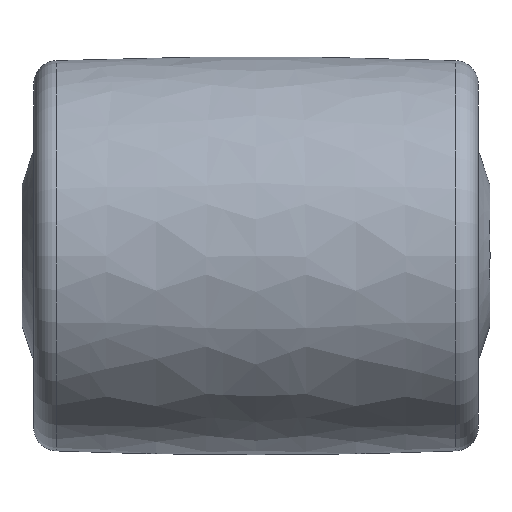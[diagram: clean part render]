
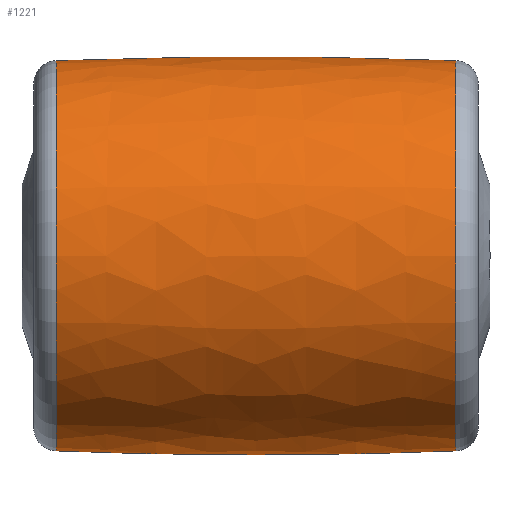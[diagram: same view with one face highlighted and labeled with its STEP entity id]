
A CAD part, front view. The second image highlights one B-rep face of the part: STEP entity #1221.
In plain terms, the highlighted free-form (B-spline) face has degree [2, 2] with [3, 9] control points.
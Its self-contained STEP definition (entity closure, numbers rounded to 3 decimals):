
#49=(
BOUNDED_SURFACE()
B_SPLINE_SURFACE(2,2,((#2152,#2153,#2154,#2155,#2156,#2157,#2158,#2159,
#2160),(#2161,#2162,#2163,#2164,#2165,#2166,#2167,#2168,#2169),(#2170,#2171,
#2172,#2173,#2174,#2175,#2176,#2177,#2178)),.UNSPECIFIED.,.F.,.T.,.F.)
B_SPLINE_SURFACE_WITH_KNOTS((3,3),(3,2,2,2,3),(-0.038,0.038),
(-3.142,-1.571,0.,1.571,3.142),
 .UNSPECIFIED.)
GEOMETRIC_REPRESENTATION_ITEM()
RATIONAL_B_SPLINE_SURFACE(((1.,0.707,1.,0.707,1.,
0.707,1.,0.707,1.),(0.999,0.707,
0.999,0.707,0.999,0.707,
0.999,0.707,0.999),(1.,0.707,
1.,0.707,1.,0.707,1.,0.707,1.)))
REPRESENTATION_ITEM('')
SURFACE()
);
#250=FACE_OUTER_BOUND('',#329,.T.);
#329=EDGE_LOOP('',(#951,#952,#953,#954,#955,#956));
#434=CIRCLE('',#1403,41.692);
#435=CIRCLE('',#1404,41.692);
#437=CIRCLE('',#1406,41.692);
#438=CIRCLE('',#1407,41.692);
#439=CIRCLE('',#1408,1128.625);
#570=VERTEX_POINT('',#2147);
#571=VERTEX_POINT('',#2148);
#572=VERTEX_POINT('',#2179);
#573=VERTEX_POINT('',#2180);
#726=EDGE_CURVE('',#570,#571,#434,.T.);
#727=EDGE_CURVE('',#571,#570,#435,.T.);
#729=EDGE_CURVE('',#572,#573,#437,.T.);
#730=EDGE_CURVE('',#573,#572,#438,.T.);
#731=EDGE_CURVE('',#573,#571,#439,.T.);
#951=ORIENTED_EDGE('',*,*,#729,.F.);
#952=ORIENTED_EDGE('',*,*,#730,.F.);
#953=ORIENTED_EDGE('',*,*,#731,.T.);
#954=ORIENTED_EDGE('',*,*,#727,.T.);
#955=ORIENTED_EDGE('',*,*,#726,.T.);
#956=ORIENTED_EDGE('',*,*,#731,.F.);
#1221=ADVANCED_FACE('',(#250),#49,.F.);
#1403=AXIS2_PLACEMENT_3D('',#2149,#1698,#1699);
#1404=AXIS2_PLACEMENT_3D('',#2150,#1700,#1701);
#1406=AXIS2_PLACEMENT_3D('',#2181,#1704,#1705);
#1407=AXIS2_PLACEMENT_3D('',#2182,#1706,#1707);
#1408=AXIS2_PLACEMENT_3D('',#2183,#1708,#1709);
#1698=DIRECTION('center_axis',(1.,0.,0.));
#1699=DIRECTION('ref_axis',(0.,0.,-1.));
#1700=DIRECTION('center_axis',(1.,0.,0.));
#1701=DIRECTION('ref_axis',(0.,0.,-1.));
#1704=DIRECTION('center_axis',(1.,0.,0.));
#1705=DIRECTION('ref_axis',(0.,0.,-1.));
#1706=DIRECTION('center_axis',(1.,0.,0.));
#1707=DIRECTION('ref_axis',(0.,0.,-1.));
#1708=DIRECTION('center_axis',(0.,-1.,0.));
#1709=DIRECTION('ref_axis',(0.,0.,1.));
#2147=CARTESIAN_POINT('',(4.811,0.,-41.692));
#2148=CARTESIAN_POINT('',(4.811,0.,41.692));
#2149=CARTESIAN_POINT('Origin',(4.811,0.,0.));
#2150=CARTESIAN_POINT('Origin',(4.811,0.,0.));
#2152=CARTESIAN_POINT('Ctrl Pts',(4.811,0.,41.692));
#2153=CARTESIAN_POINT('Ctrl Pts',(4.811,-41.692,41.692));
#2154=CARTESIAN_POINT('Ctrl Pts',(4.811,-41.692,0.));
#2155=CARTESIAN_POINT('Ctrl Pts',(4.811,-41.692,-41.692));
#2156=CARTESIAN_POINT('Ctrl Pts',(4.811,0.,-41.692));
#2157=CARTESIAN_POINT('Ctrl Pts',(4.811,41.692,-41.692));
#2158=CARTESIAN_POINT('Ctrl Pts',(4.811,41.692,0.));
#2159=CARTESIAN_POINT('Ctrl Pts',(4.811,41.692,41.692));
#2160=CARTESIAN_POINT('Ctrl Pts',(4.811,0.,41.692));
#2161=CARTESIAN_POINT('Ctrl Pts',(47.5,0.,43.308));
#2162=CARTESIAN_POINT('Ctrl Pts',(47.5,-43.308,43.308));
#2163=CARTESIAN_POINT('Ctrl Pts',(47.5,-43.308,0.));
#2164=CARTESIAN_POINT('Ctrl Pts',(47.5,-43.308,-43.308));
#2165=CARTESIAN_POINT('Ctrl Pts',(47.5,0.,-43.308));
#2166=CARTESIAN_POINT('Ctrl Pts',(47.5,43.308,-43.308));
#2167=CARTESIAN_POINT('Ctrl Pts',(47.5,43.308,0.));
#2168=CARTESIAN_POINT('Ctrl Pts',(47.5,43.308,43.308));
#2169=CARTESIAN_POINT('Ctrl Pts',(47.5,0.,43.308));
#2170=CARTESIAN_POINT('Ctrl Pts',(90.189,0.,41.692));
#2171=CARTESIAN_POINT('Ctrl Pts',(90.189,-41.692,41.692));
#2172=CARTESIAN_POINT('Ctrl Pts',(90.189,-41.692,0.));
#2173=CARTESIAN_POINT('Ctrl Pts',(90.189,-41.692,-41.692));
#2174=CARTESIAN_POINT('Ctrl Pts',(90.189,0.,-41.692));
#2175=CARTESIAN_POINT('Ctrl Pts',(90.189,41.692,-41.692));
#2176=CARTESIAN_POINT('Ctrl Pts',(90.189,41.692,0.));
#2177=CARTESIAN_POINT('Ctrl Pts',(90.189,41.692,41.692));
#2178=CARTESIAN_POINT('Ctrl Pts',(90.189,0.,41.692));
#2179=CARTESIAN_POINT('',(90.189,0.,-41.692));
#2180=CARTESIAN_POINT('',(90.189,0.,41.692));
#2181=CARTESIAN_POINT('Origin',(90.189,0.,0.));
#2182=CARTESIAN_POINT('Origin',(90.189,0.,0.));
#2183=CARTESIAN_POINT('Origin',(47.5,0.,-1086.125));
